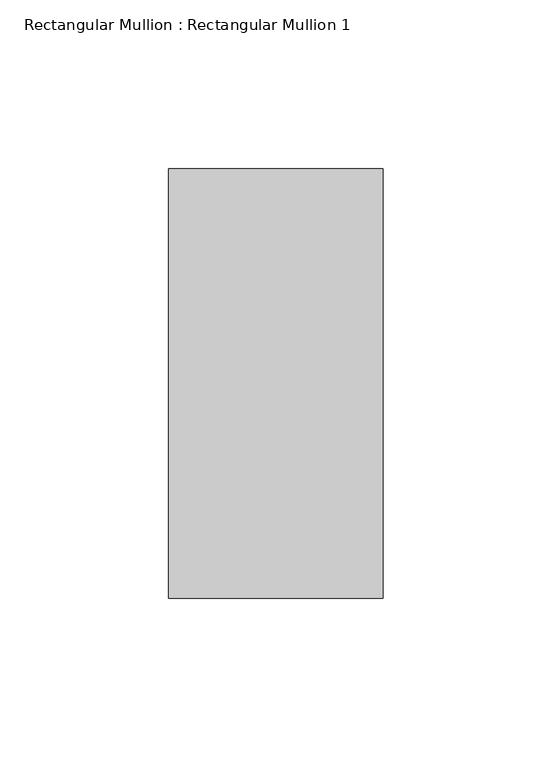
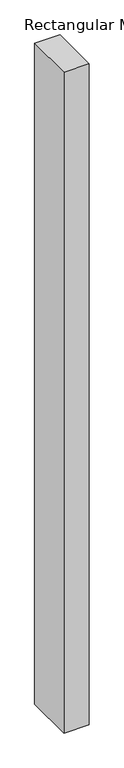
"""IFC4 building model written with IfcOpenShell, lengths in millimetres: member geometry, Rectangular Mullion : Rectangular Mullion 1."""

from ifc_helpers import new_model, si_unit, frame, origin, place, context, project, spatial, polyline, outline, extrude, source, transform, mapped, element, save


def rectangular_mullion_rectangular_mullion_1_694252b1(model_context):
    return source(origin(), model_context, "Body", "SweptSolid", [
        extrude(outline(polyline([(0.0, 63.5), (0.0, -63.5), (-63.5, -63.5), (-63.5, 63.5), (0.0, 63.5)])), frame((0.0, 0.0, -1754.75), z_axis=(0.0, 0.0, 1.0), x_axis=(1.0, 0.0, 0.0)), (0.0, 0.0, 1.0), 1754.75),
    ])


if __name__ == "__main__":
    model = new_model("IFC4")
    model_context = context("Model", 3, world=origin())
    ifc_project = project(units=[si_unit("LENGTHUNIT", "METRE", prefix="MILLI")], contexts=[model_context])
    site = spatial("IfcSite", under=ifc_project)
    building = spatial("IfcBuilding", under=site)
    placement = place(None, origin())
    rectangular_mullion_rectangular_mullion_1_shape = rectangular_mullion_rectangular_mullion_1_694252b1(model_context)
    element("IfcMember", 1, ObjectType="Rectangular Mullion : Rectangular Mullion 1", at=placement, inside=building, context=model_context, shape_type="MappedRepresentation", body=[
        mapped(rectangular_mullion_rectangular_mullion_1_shape, transform((0.0, 0.0, 0.0), x_axis=(1.0, 0.0, 0.0), y_axis=(0.0, 1.0, 0.0), z_axis=(0.0, 0.0, 1.0))),
    ])
    save(model, "model.ifc")
